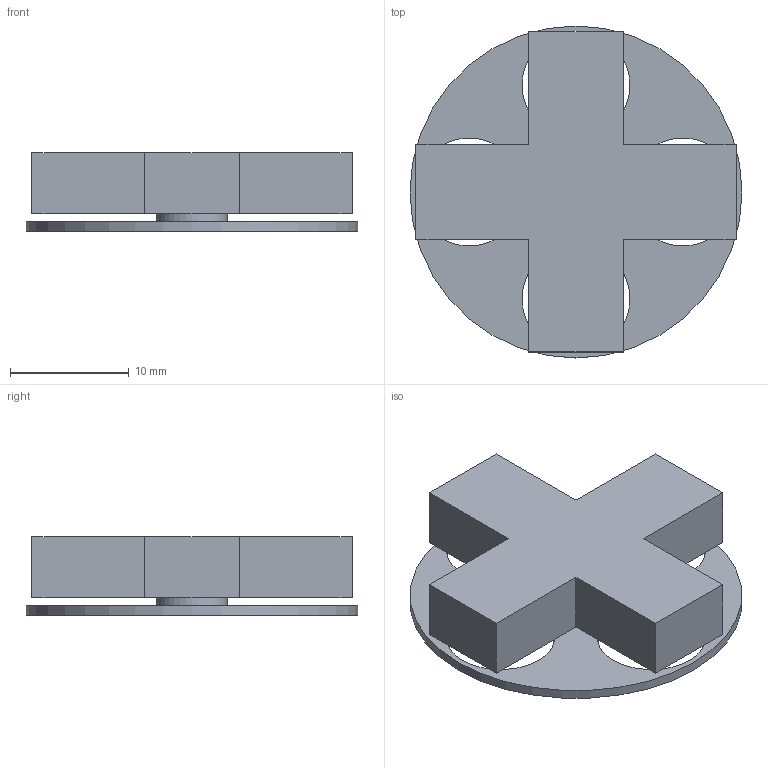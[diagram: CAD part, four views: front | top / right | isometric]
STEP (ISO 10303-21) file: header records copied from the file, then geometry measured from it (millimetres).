
FILE_DESCRIPTION(('FreeCAD Model'),'2;1');
FILE_NAME('Open CASCADE Shape Model','2026-10-20T15:18:15',('FreeCAD'),( 'FreeCAD'),'Open CASCADE STEP processor 7.8','FreeCAD','Unknown');
FILE_SCHEMA(('AUTOMOTIVE_DESIGN { 1 0 10303 214 1 1 1 1 }'));
Length unit declared in the file: millimetre
Products named in the file (1): Open CASCADE STEP translator 7.8 15
Bounding box: 28 x 28 x 6.6 mm (x, y, z)
Volume: 2198.1 mm3; surface area: 2121 mm2
Topology: 1 solids, 1 shells, 22 faces, 54 edges, 36 vertices
Faces by surface type: plane 16, cylinder 6
Full cylindrical faces by diameter (mm): 6 x1, 9.1 x4, 28 x1
Entity records: 676 total; most frequent: CARTESIAN_POINT 113, DIRECTION 112, ORIENTED_EDGE 108, EDGE_CURVE 54, LINE 42, VECTOR 42, VERTEX_POINT 36, AXIS2_PLACEMENT_3D 35
